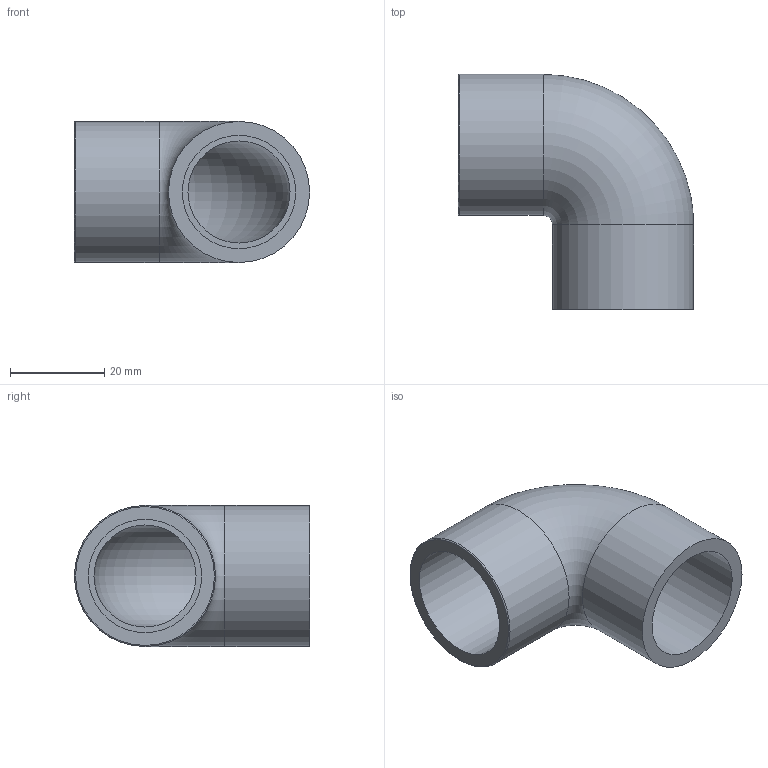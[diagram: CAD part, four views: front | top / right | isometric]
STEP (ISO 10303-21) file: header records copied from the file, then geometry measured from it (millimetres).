
FILE_DESCRIPTION(/* description */ ('PLASSON THREADED 90° ELBOW PVC 3/4"'),/* implementation_level */ '2;1');
FILE_NAME(/* name */ 'C:\Dropbox\KIMPROJECTS-Inventor\99-16-3568-Processing\PVC Catalog 2017\050501\050501007.ipt.stp',/* time_stamp */ '2017-12-07T15:55:49+02:00',/* author */ ('KIM'),/* organization */ (''),/* preprocessor_version */ 'ST-DEVELOPER v15.6',/* originating_system */ 'Autodesk Inventor 2015',/* authorisation */ '');
FILE_SCHEMA (('AUTOMOTIVE_DESIGN { 1 0 10303 214 3 1 1 }'));
Length unit declared in the file: millimetre
Products named in the file (1): 050501007
Bounding box: 50 x 50 x 30 mm (x, y, z)
Volume: 17995.4 mm3; surface area: 11122 mm2
Topology: 1 solids, 1 shells, 11 faces, 21 edges, 14 vertices
Faces by surface type: cylinder 4, plane 4, torus 3
Full cylindrical faces by diameter (mm): 24.117 x2, 30 x2
Entity records: 252 total; most frequent: DIRECTION 46, CARTESIAN_POINT 34, AXIS2_PLACEMENT_3D 23, EDGE_LOOP 22, ORIENTED_EDGE 22, FACE_BOUND 11, FACE_OUTER_BOUND 11, CIRCLE 11
